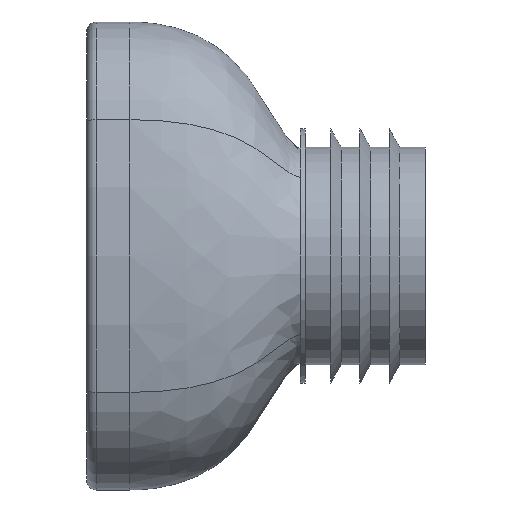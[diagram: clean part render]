
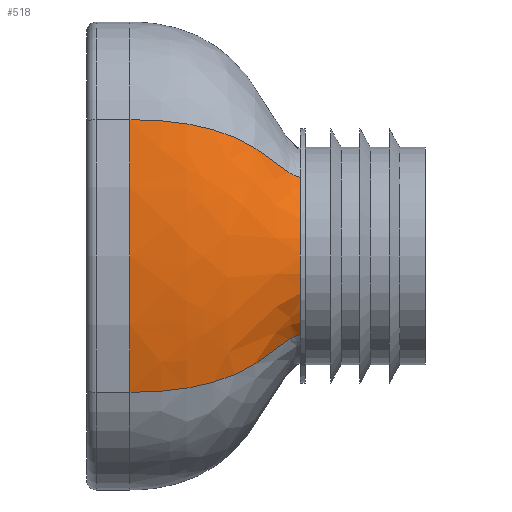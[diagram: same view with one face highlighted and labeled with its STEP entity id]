
A CAD part, left-side view. The second image highlights one B-rep face of the part: STEP entity #518.
In plain terms, the highlighted free-form (B-spline) face has degree [3, 3] with [10, 4] control points.
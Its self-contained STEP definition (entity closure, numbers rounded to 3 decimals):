
#47=B_SPLINE_SURFACE_WITH_KNOTS($,3,3,((#1062,#1063,#1064,#1065),(#1066,
#1067,#1068,#1069),(#1070,#1071,#1072,#1073),(#1074,#1075,#1076,#1077),
(#1078,#1079,#1080,#1081),(#1082,#1083,#1084,#1085),(#1086,#1087,#1088,
#1089),(#1090,#1091,#1092,#1093),(#1094,#1095,#1096,#1097),(#1098,#1099,
#1100,#1101)),.UNSPECIFIED.,.F.,.F.,.F.,(4,1,1,1,1,1,1,4),(4,4),(0.,0.143,
0.286,0.429,0.571,0.714,
0.857,1.),(0.,1.),.UNSPECIFIED.);
#77=B_SPLINE_CURVE_WITH_KNOTS($,3,(#1058,#1059,#1060,#1061),
 .UNSPECIFIED.,.F.,.F.,(4,4),(0.,1.),.UNSPECIFIED.);
#78=B_SPLINE_CURVE_WITH_KNOTS($,3,(#1104,#1105,#1106,#1107),
 .UNSPECIFIED.,.F.,.F.,(4,4),(0.,1.),.UNSPECIFIED.);
#129=FACE_OUTER_BOUND($,#161,.T.);
#161=EDGE_LOOP($,(#442,#443,#444,#445));
#220=CIRCLE($,#583,218.2);
#229=CIRCLE($,#592,44.45);
#267=VERTEX_POINT($,#898);
#268=VERTEX_POINT($,#900);
#276=VERTEX_POINT($,#1056);
#277=VERTEX_POINT($,#1102);
#326=EDGE_CURVE($,#267,#268,#220,.T.);
#339=EDGE_CURVE($,#276,#268,#77,.T.);
#340=EDGE_CURVE($,#277,#276,#229,.T.);
#341=EDGE_CURVE($,#277,#267,#78,.T.);
#442=ORIENTED_EDGE($,*,*,#340,.T.);
#443=ORIENTED_EDGE($,*,*,#339,.T.);
#444=ORIENTED_EDGE($,*,*,#326,.F.);
#445=ORIENTED_EDGE($,*,*,#341,.F.);
#518=ADVANCED_FACE($,(#129),#47,.T.);
#583=AXIS2_PLACEMENT_3D($,#901,#717,#718);
#592=AXIS2_PLACEMENT_3D($,#1103,#735,#736);
#717=DIRECTION('center_axis',(0.,1.,0.));
#718=DIRECTION('ref_axis',(0.966,0.,0.26));
#735=DIRECTION('center_axis',(0.,1.,0.));
#736=DIRECTION('ref_axis',(-1.,0.,0.));
#898=CARTESIAN_POINT('',(-52.473,73.,-56.817));
#900=CARTESIAN_POINT('',(-52.473,73.,56.817));
#901=CARTESIAN_POINT('Origin',(158.2,73.,0.));
#1056=CARTESIAN_POINT('',(-30.158,0.,32.654));
#1058=CARTESIAN_POINT('Ctrl Pts',(-30.158,0.,32.654));
#1059=CARTESIAN_POINT('Ctrl Pts',(-30.158,13.345,32.654));
#1060=CARTESIAN_POINT('Ctrl Pts',(-52.473,17.033,56.817));
#1061=CARTESIAN_POINT('Ctrl Pts',(-52.473,73.,56.817));
#1062=CARTESIAN_POINT('Ctrl Pts',(-30.158,0.,-32.654));
#1063=CARTESIAN_POINT('Ctrl Pts',(-30.158,13.345,-32.654));
#1064=CARTESIAN_POINT('Ctrl Pts',(-52.473,17.033,-56.817));
#1065=CARTESIAN_POINT('Ctrl Pts',(-52.473,73.,-56.817));
#1066=CARTESIAN_POINT('Ctrl Pts',(-31.317,0.,-31.583));
#1067=CARTESIAN_POINT('Ctrl Pts',(-31.234,13.304,-31.66));
#1068=CARTESIAN_POINT('Ctrl Pts',(-53.357,17.033,-53.54));
#1069=CARTESIAN_POINT('Ctrl Pts',(-53.357,73.,-53.54));
#1070=CARTESIAN_POINT('Ctrl Pts',(-34.752,0.,-28.212));
#1071=CARTESIAN_POINT('Ctrl Pts',(-34.563,13.235,-28.426));
#1072=CARTESIAN_POINT('Ctrl Pts',(-55.437,17.033,-45.221));
#1073=CARTESIAN_POINT('Ctrl Pts',(-55.437,73.,-45.221));
#1074=CARTESIAN_POINT('Ctrl Pts',(-40.69,0.,-19.201));
#1075=CARTESIAN_POINT('Ctrl Pts',(-40.559,13.166,-19.495));
#1076=CARTESIAN_POINT('Ctrl Pts',(-58.345,17.033,-28.787));
#1077=CARTESIAN_POINT('Ctrl Pts',(-58.345,73.,-28.787));
#1078=CARTESIAN_POINT('Ctrl Pts',(-44.611,0.,-6.846));
#1079=CARTESIAN_POINT('Ctrl Pts',(-44.616,13.131,-6.988));
#1080=CARTESIAN_POINT('Ctrl Pts',(-60.071,17.033,-9.877));
#1081=CARTESIAN_POINT('Ctrl Pts',(-60.071,73.,-9.877));
#1082=CARTESIAN_POINT('Ctrl Pts',(-44.612,0.,6.845));
#1083=CARTESIAN_POINT('Ctrl Pts',(-44.617,13.131,6.987));
#1084=CARTESIAN_POINT('Ctrl Pts',(-60.072,17.033,9.877));
#1085=CARTESIAN_POINT('Ctrl Pts',(-60.072,73.,9.877));
#1086=CARTESIAN_POINT('Ctrl Pts',(-40.691,0.,19.199));
#1087=CARTESIAN_POINT('Ctrl Pts',(-40.56,13.166,19.493));
#1088=CARTESIAN_POINT('Ctrl Pts',(-58.344,17.033,28.786));
#1089=CARTESIAN_POINT('Ctrl Pts',(-58.344,73.,28.786));
#1090=CARTESIAN_POINT('Ctrl Pts',(-34.751,0.,28.21));
#1091=CARTESIAN_POINT('Ctrl Pts',(-34.562,13.235,28.424));
#1092=CARTESIAN_POINT('Ctrl Pts',(-55.437,17.033,45.221));
#1093=CARTESIAN_POINT('Ctrl Pts',(-55.437,73.,45.221));
#1094=CARTESIAN_POINT('Ctrl Pts',(-31.317,0.,31.583));
#1095=CARTESIAN_POINT('Ctrl Pts',(-31.234,13.304,31.66));
#1096=CARTESIAN_POINT('Ctrl Pts',(-53.357,17.033,53.54));
#1097=CARTESIAN_POINT('Ctrl Pts',(-53.357,73.,53.54));
#1098=CARTESIAN_POINT('Ctrl Pts',(-30.158,0.,32.654));
#1099=CARTESIAN_POINT('Ctrl Pts',(-30.158,13.345,32.654));
#1100=CARTESIAN_POINT('Ctrl Pts',(-52.473,17.033,56.817));
#1101=CARTESIAN_POINT('Ctrl Pts',(-52.473,73.,56.817));
#1102=CARTESIAN_POINT('',(-30.158,0.,-32.654));
#1103=CARTESIAN_POINT('Origin',(0.,0.,0.));
#1104=CARTESIAN_POINT('Ctrl Pts',(-30.158,0.,-32.654));
#1105=CARTESIAN_POINT('Ctrl Pts',(-30.158,13.345,-32.654));
#1106=CARTESIAN_POINT('Ctrl Pts',(-52.473,17.033,-56.817));
#1107=CARTESIAN_POINT('Ctrl Pts',(-52.473,73.,-56.817));
